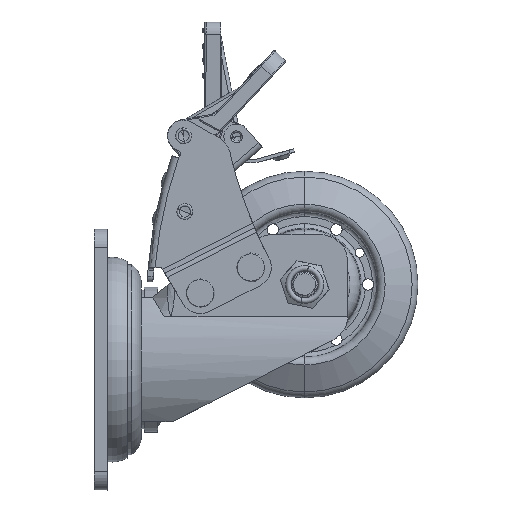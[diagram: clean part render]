
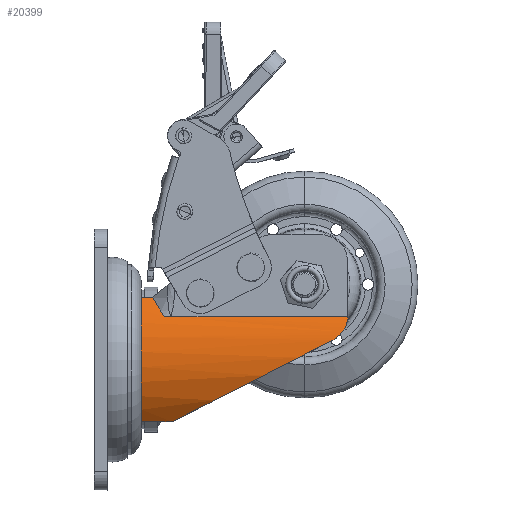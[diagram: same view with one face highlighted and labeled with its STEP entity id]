
A CAD part, left-side view. The second image highlights one B-rep face of the part: STEP entity #20399.
In plain terms, the highlighted cylindrical face has radius 42 mm (diameter 84 mm), a partial arc.
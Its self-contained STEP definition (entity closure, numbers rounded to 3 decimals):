
#3475 = CARTESIAN_POINT ( 'NONE',  ( -37.5, -23., 18.914 ) ) ;
#3511 = CARTESIAN_POINT ( 'NONE',  ( -37.5, -100.994, 18.914 ) ) ;
#3512 = DIRECTION ( 'NONE',  ( 0., 1., 0. ) ) ;
#3513 = VECTOR ( 'NONE', #3512, 1000. ) ;
#3514 = CARTESIAN_POINT ( 'NONE',  ( -37.5, -182., 18.914 ) ) ;
#3515 = LINE ( 'NONE', #3514, #3513 ) ;
#3555 = DIRECTION ( 'NONE',  ( 0., 0., 1. ) ) ;
#3556 = DIRECTION ( 'NONE',  ( 0., -1., 0. ) ) ;
#3557 = CARTESIAN_POINT ( 'NONE',  ( 0., -10., 0. ) ) ;
#3558 = AXIS2_PLACEMENT_3D ( 'NONE', #3557, #3556, #3555 ) ;
#3559 = CIRCLE ( 'NONE', #3558, 42. ) ;
#3585 = CARTESIAN_POINT ( 'NONE',  ( -41.11, -94.437, 8.603 ) ) ;
#3586 = CARTESIAN_POINT ( 'NONE',  ( -43.837, -68.793, -4.429 ) ) ;
#3587 = CARTESIAN_POINT ( 'NONE',  ( -40.512, -43.423, -17.322 ) ) ;
#3588 = CARTESIAN_POINT ( 'NONE',  ( -31.823, -23.572, -27.41 ) ) ;
#3589 =( BOUNDED_CURVE ( )  B_SPLINE_CURVE ( 3, ( #3588, #3587, #3586, #3585 ),
 .UNSPECIFIED., .F., .T. ) 
 B_SPLINE_CURVE_WITH_KNOTS ( ( 4, 4 ),
 ( 0.86, 1.777 ),
 .UNSPECIFIED. ) 
 CURVE ( )  GEOMETRIC_REPRESENTATION_ITEM ( )  RATIONAL_B_SPLINE_CURVE ( ( 1., 0.931, 0.931, 1. ) ) 
 REPRESENTATION_ITEM ( '' )  );
#3591 = CARTESIAN_POINT ( 'NONE',  ( -31.823, -23.572, -27.41 ) ) ;
#3597 = DIRECTION ( 'NONE',  ( 0., -1., 0. ) ) ;
#3598 = VECTOR ( 'NONE', #3597, 1000. ) ;
#3599 = CARTESIAN_POINT ( 'NONE',  ( -31.823, -182., -27.41 ) ) ;
#3600 = LINE ( 'NONE', #3599, #3598 ) ;
#3602 = CARTESIAN_POINT ( 'NONE',  ( -31.823, -10., -27.41 ) ) ;
#3633 = CARTESIAN_POINT ( 'NONE',  ( -41.11, -94.437, 8.603 ) ) ;
#3704 = DIRECTION ( 'NONE',  ( 0., 0., 1. ) ) ;
#3705 = DIRECTION ( 'NONE',  ( 0., 1., 0. ) ) ;
#3706 = CARTESIAN_POINT ( 'NONE',  ( 0., -182., 0. ) ) ;
#3707 = AXIS2_PLACEMENT_3D ( 'NONE', #3706, #3705, #3704 ) ;
#3708 = CYLINDRICAL_SURFACE ( 'NONE', #3707, 42. ) ;
#3709 = FACE_OUTER_BOUND ( 'NONE', #20401, .T. ) ;
#3976 = B_SPLINE_CURVE_WITH_KNOTS ( 'NONE', 3,
 ( #3981, #3980, #3979, #3978, #3977, #4039, #4038, #4037, #4036, #4035, #4034, #4033, #4032, #4031, #4030, #4029, #4028, #4027 ),
 .UNSPECIFIED., .F., .F.,
 ( 4, 2, 2, 2, 2, 2, 2, 2, 4 ),
 ( 0., 0.003, 0.005, 0.007, 0.007, 0.008, 0.01, 0.012, 0.013 ),
 .UNSPECIFIED. ) ;
#3977 = CARTESIAN_POINT ( 'NONE',  ( -40.462, -97.932, 11.269 ) ) ;
#3978 = CARTESIAN_POINT ( 'NONE',  ( -40.572, -97.552, 10.864 ) ) ;
#3979 = CARTESIAN_POINT ( 'NONE',  ( -40.862, -96.339, 9.743 ) ) ;
#3980 = CARTESIAN_POINT ( 'NONE',  ( -41.003, -95.436, 9.111 ) ) ;
#3981 = CARTESIAN_POINT ( 'NONE',  ( -41.11, -94.437, 8.603 ) ) ;
#4023 = DIRECTION ( 'NONE',  ( 0., -1., 0. ) ) ;
#4024 = VECTOR ( 'NONE', #4023, 1000. ) ;
#4025 = CARTESIAN_POINT ( 'NONE',  ( -37.5, -182., 18.914 ) ) ;
#4026 = LINE ( 'NONE', #4025, #4024 ) ;
#4027 = CARTESIAN_POINT ( 'NONE',  ( -37.5, -100.994, 18.914 ) ) ;
#4028 = CARTESIAN_POINT ( 'NONE',  ( -37.753, -100.978, 18.412 ) ) ;
#4029 = CARTESIAN_POINT ( 'NONE',  ( -37.996, -100.93, 17.906 ) ) ;
#4030 = CARTESIAN_POINT ( 'NONE',  ( -38.456, -100.768, 16.895 ) ) ;
#4031 = CARTESIAN_POINT ( 'NONE',  ( -38.672, -100.654, 16.394 ) ) ;
#4032 = CARTESIAN_POINT ( 'NONE',  ( -39.078, -100.361, 15.401 ) ) ;
#4033 = CARTESIAN_POINT ( 'NONE',  ( -39.268, -100.181, 14.91 ) ) ;
#4034 = CARTESIAN_POINT ( 'NONE',  ( -39.534, -99.857, 14.182 ) ) ;
#4035 = CARTESIAN_POINT ( 'NONE',  ( -39.62, -99.739, 13.94 ) ) ;
#4036 = CARTESIAN_POINT ( 'NONE',  ( -39.784, -99.489, 13.466 ) ) ;
#4037 = CARTESIAN_POINT ( 'NONE',  ( -39.862, -99.356, 13.233 ) ) ;
#4038 = CARTESIAN_POINT ( 'NONE',  ( -40.085, -98.934, 12.548 ) ) ;
#4039 = CARTESIAN_POINT ( 'NONE',  ( -40.219, -98.622, 12.109 ) ) ;
#4069 = CARTESIAN_POINT ( 'NONE',  ( -31.795, -10., 27.443 ) ) ;
#4070 = LINE ( 'NONE', #4069, #4128 ) ;
#4083 = CARTESIAN_POINT ( 'NONE',  ( -31.795, -15., 27.443 ) ) ;
#4085 = CARTESIAN_POINT ( 'NONE',  ( -37.5, -20., 18.914 ) ) ;
#4087 = CARTESIAN_POINT ( 'NONE',  ( -37.5, -20., 18.914 ) ) ;
#4088 = CARTESIAN_POINT ( 'NONE',  ( -36.73, -19.105, 20.441 ) ) ;
#4089 = CARTESIAN_POINT ( 'NONE',  ( -35.863, -18.234, 21.927 ) ) ;
#4090 = CARTESIAN_POINT ( 'NONE',  ( -33.954, -16.561, 24.78 ) ) ;
#4091 = CARTESIAN_POINT ( 'NONE',  ( -32.912, -15.759, 26.148 ) ) ;
#4092 = CARTESIAN_POINT ( 'NONE',  ( -31.795, -15., 27.443 ) ) ;
#4093 = B_SPLINE_CURVE_WITH_KNOTS ( 'NONE', 3,
 ( #4092, #4091, #4090, #4089, #4088, #4087 ),
 .UNSPECIFIED., .F., .F.,
 ( 4, 2, 4 ),
 ( 0., 0.5, 1. ),
 .UNSPECIFIED. ) ;
#4125 = CARTESIAN_POINT ( 'NONE',  ( -31.795, -10., 27.443 ) ) ;
#4127 = DIRECTION ( 'NONE',  ( 0., -1., 0. ) ) ;
#4128 = VECTOR ( 'NONE', #4127, 1000. ) ;
#20305 = VERTEX_POINT ( 'NONE', #3475 ) ;
#20308 = EDGE_CURVE ( 'NONE', #20310, #20305, #3515, .T. ) ;
#20310 = VERTEX_POINT ( 'NONE', #3511 ) ;
#20354 = ORIENTED_EDGE ( 'NONE', *, *, #20356, .T. ) ;
#20356 = EDGE_CURVE ( 'NONE', #20527, #20358, #3559, .T. ) ;
#20358 = VERTEX_POINT ( 'NONE', #3602 ) ;
#20360 = ORIENTED_EDGE ( 'NONE', *, *, #20362, .T. ) ;
#20362 = EDGE_CURVE ( 'NONE', #20358, #20364, #3600, .T. ) ;
#20364 = VERTEX_POINT ( 'NONE', #3591 ) ;
#20366 = ORIENTED_EDGE ( 'NONE', *, *, #20368, .T. ) ;
#20368 = EDGE_CURVE ( 'NONE', #20364, #20370, #3589, .T. ) ;
#20370 = VERTEX_POINT ( 'NONE', #3633 ) ;
#20399 = ADVANCED_FACE ( 'NONE', ( #3709 ), #3708, .T. ) ;
#20401 = EDGE_LOOP ( 'NONE', ( #20515, #20523, #20354, #20360, #20366, #20487, #20491, #20493 ) ) ;
#20487 = ORIENTED_EDGE ( 'NONE', *, *, #20489, .T. ) ;
#20489 = EDGE_CURVE ( 'NONE', #20370, #20310, #3976, .T. ) ;
#20491 = ORIENTED_EDGE ( 'NONE', *, *, #20308, .T. ) ;
#20493 = ORIENTED_EDGE ( 'NONE', *, *, #20495, .F. ) ;
#20495 = EDGE_CURVE ( 'NONE', #20521, #20305, #4026, .T. ) ;
#20515 = ORIENTED_EDGE ( 'NONE', *, *, #20517, .F. ) ;
#20517 = EDGE_CURVE ( 'NONE', #20519, #20521, #4093, .T. ) ;
#20519 = VERTEX_POINT ( 'NONE', #4083 ) ;
#20521 = VERTEX_POINT ( 'NONE', #4085 ) ;
#20523 = ORIENTED_EDGE ( 'NONE', *, *, #20525, .F. ) ;
#20525 = EDGE_CURVE ( 'NONE', #20527, #20519, #4070, .T. ) ;
#20527 = VERTEX_POINT ( 'NONE', #4125 ) ;
